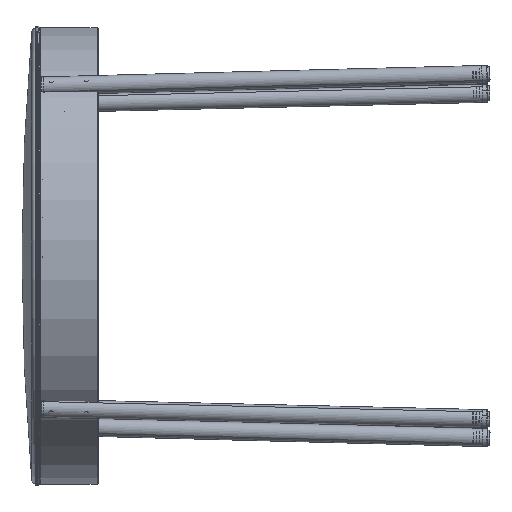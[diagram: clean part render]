
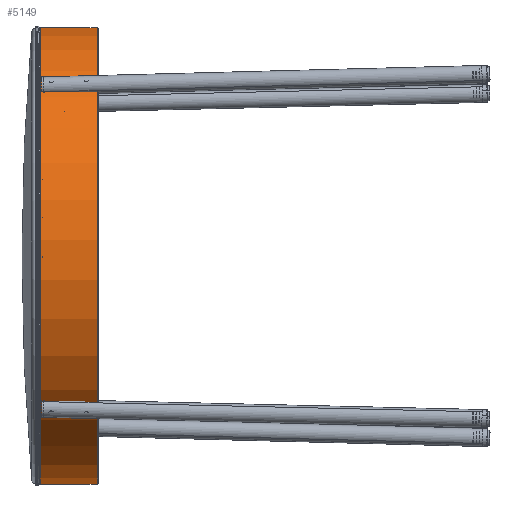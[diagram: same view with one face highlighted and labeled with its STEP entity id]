
A CAD part, left-side view. The second image highlights one B-rep face of the part: STEP entity #5149.
In plain terms, the highlighted cylindrical face has radius 228.6 mm (diameter 457.2 mm), a partial arc.
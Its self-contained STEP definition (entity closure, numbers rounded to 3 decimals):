
#354 = CARTESIAN_POINT ( 'NONE',  ( 0., 0., 228.6 ) ) ;
#493 = CARTESIAN_POINT ( 'NONE',  ( 0., 0., 0. ) ) ;
#511 = ORIENTED_EDGE ( 'NONE', *, *, #3713, .F. ) ;
#686 = VERTEX_POINT ( 'NONE', #354 ) ;
#1132 = VERTEX_POINT ( 'NONE', #13029 ) ;
#1768 = FACE_OUTER_BOUND ( 'NONE', #14943, .T. ) ;
#2012 = EDGE_CURVE ( 'NONE', #1132, #12165, #12560, .T. ) ;
#2166 = VECTOR ( 'NONE', #9776, 1000. ) ;
#2646 = DIRECTION ( 'NONE',  ( 0., 0., -1. ) ) ;
#3713 = EDGE_CURVE ( 'NONE', #11677, #686, #5994, .T. ) ;
#5149 = ADVANCED_FACE ( 'NONE', ( #1768 ), #9759, .T. ) ;
#5447 = ORIENTED_EDGE ( 'NONE', *, *, #6524, .T. ) ;
#5994 = LINE ( 'NONE', #11237, #2166 ) ;
#6524 = EDGE_CURVE ( 'NONE', #11677, #1132, #16425, .T. ) ;
#6892 = CARTESIAN_POINT ( 'NONE',  ( 0., 56.728, 228.6 ) ) ;
#7427 = ORIENTED_EDGE ( 'NONE', *, *, #2012, .T. ) ;
#9081 = AXIS2_PLACEMENT_3D ( 'NONE', #10375, #13039, #2646 ) ;
#9590 = EDGE_CURVE ( 'NONE', #686, #12165, #14036, .T. ) ;
#9675 = CARTESIAN_POINT ( 'NONE',  ( 0., 0., -228.6 ) ) ;
#9759 = CYLINDRICAL_SURFACE ( 'NONE', #11813, 228.6 ) ;
#9776 = DIRECTION ( 'NONE',  ( 0., -1., 0. ) ) ;
#10375 = CARTESIAN_POINT ( 'NONE',  ( 0., 56.728, 0. ) ) ;
#10450 = DIRECTION ( 'NONE',  ( 0., 0., -1. ) ) ;
#11131 = DIRECTION ( 'NONE',  ( 0., 0., -1. ) ) ;
#11237 = CARTESIAN_POINT ( 'NONE',  ( 0., 0., 228.6 ) ) ;
#11651 = VECTOR ( 'NONE', #15210, 1000. ) ;
#11677 = VERTEX_POINT ( 'NONE', #6892 ) ;
#11726 = DIRECTION ( 'NONE',  ( 0., -1., 0. ) ) ;
#11813 = AXIS2_PLACEMENT_3D ( 'NONE', #493, #14980, #11131 ) ;
#12165 = VERTEX_POINT ( 'NONE', #9675 ) ;
#12560 = LINE ( 'NONE', #13752, #11651 ) ;
#13029 = CARTESIAN_POINT ( 'NONE',  ( 0., 56.728, -228.6 ) ) ;
#13039 = DIRECTION ( 'NONE',  ( 0., -1., 0. ) ) ;
#13752 = CARTESIAN_POINT ( 'NONE',  ( 0., 0., -228.6 ) ) ;
#14036 = CIRCLE ( 'NONE', #16204, 228.6 ) ;
#14463 = CARTESIAN_POINT ( 'NONE',  ( 0., 0., 0. ) ) ;
#14943 = EDGE_LOOP ( 'NONE', ( #511, #5447, #7427, #15880 ) ) ;
#14980 = DIRECTION ( 'NONE',  ( 0., -1., 0. ) ) ;
#15210 = DIRECTION ( 'NONE',  ( 0., -1., 0. ) ) ;
#15880 = ORIENTED_EDGE ( 'NONE', *, *, #9590, .F. ) ;
#16204 = AXIS2_PLACEMENT_3D ( 'NONE', #14463, #11726, #10450 ) ;
#16425 = CIRCLE ( 'NONE', #9081, 228.6 ) ;
